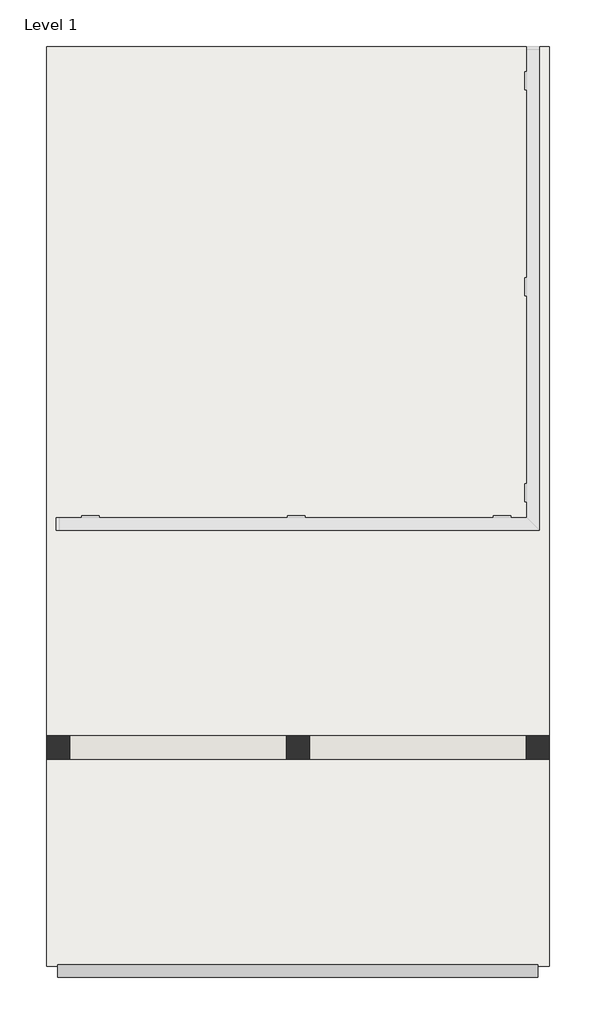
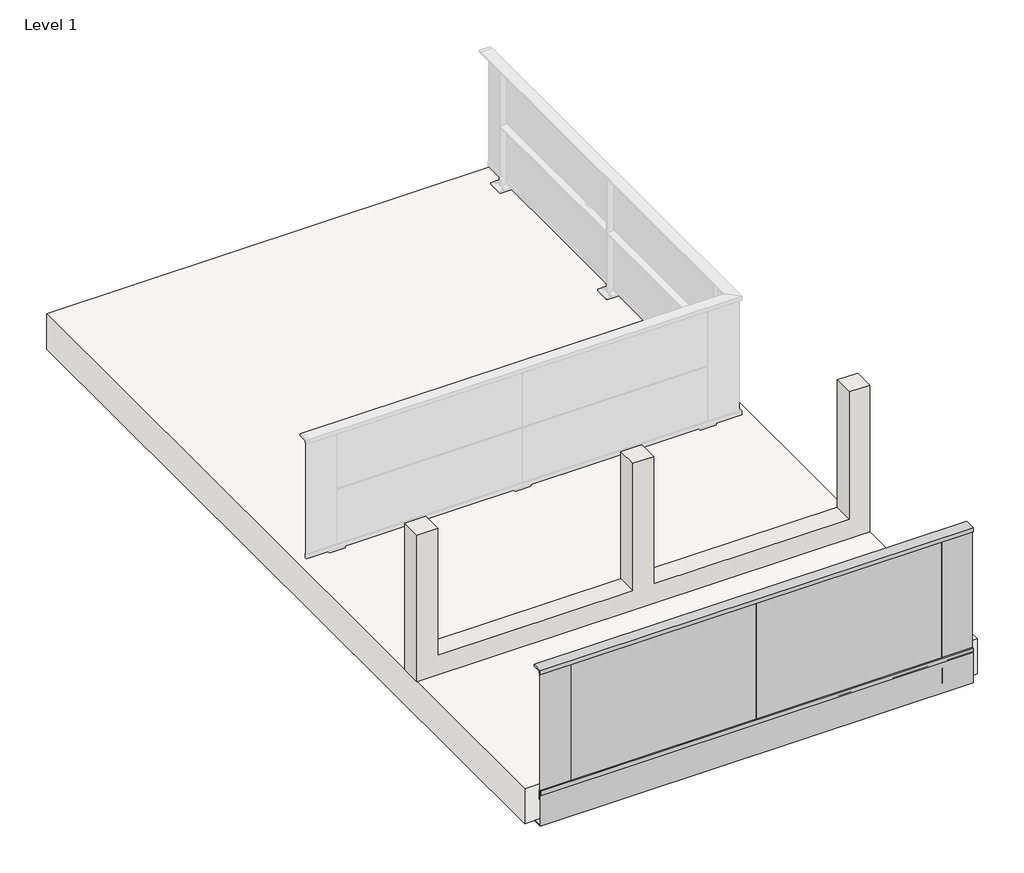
# One storey, part 1 of 2: 1 railing, 1 slab, 1 wall.
"""IFC4 building model written with IfcOpenShell, lengths in millimetres."""

from ifc_helpers import new_model, si_unit, point, frame, frame_2d, origin, place, context, project, spatial, polyline, circle_curve, ellipse_curve, trimmed, segment, composite_curve, outline, extrude, element, save
from ifc_brep_helpers import plane_surface, cylinder_surface, revolved_surface, advanced_brep

model = new_model("IFC4")

# Units and contexts
model_context = context("Model", 3, world=origin())
ifc_project = project(units=[si_unit("LENGTHUNIT", "METRE", prefix="MILLI")], contexts=[model_context])

# Site, building, storey
site = spatial("IfcSite", under=ifc_project)
building = spatial("IfcBuilding", under=site)
storey = spatial("IfcBuildingStorey", under=building, Name="Level 1", Elevation=0.0)

# Railing
placement = place(None, origin())
element("IfcRailing", 1, ObjectType="Karactère Garde-Corps - Pose Nez Dalle", at=placement, inside=storey, context=model_context, shape_type="SolidModel", body=[
    extrude(outline(polyline([(1643.0410088, -38.0), (1643.0410088, 0.0), (1652.5410088, 0.0), (1652.5410088, -22.0), (1655.5410088, -22.0), (1655.5410088, 0.0), (1664.0410088, 0.0), (1664.0410088, -78.0), (1661.0410088, -78.0), (1661.0410088, -27.0), (1650.0410088, -27.0), (1650.0410088, -38.0), (1648.0410088, -38.0), (1648.0410088, -27.0), (1645.0410088, -27.0), (1645.0410088, -38.0), (1643.0410088, -38.0)])), frame((-13869.6075858, 0.0, 0.0), z_axis=(1.0, 0.0, 0.0), x_axis=(0.0, 1.0, 0.0)), (0.0, 0.0, 1.0), 3500.0),
    extrude(outline(polyline([(1645.0410088, -300.0), (1645.0410088, -27.0), (1648.0410088, -27.0), (1648.0410088, -297.0), (1725.0410088, -297.0), (1725.0410088, -300.0), (1645.0410088, -300.0)])), frame((-13869.6075858, 0.0, 0.0), z_axis=(1.0, 0.0, 0.0), x_axis=(0.0, 1.0, 0.0)), (0.0, 0.0, 1.0), 3500.0),
    extrude(outline(polyline([(1643.5410088, 1030.0), (1733.5410088, 1030.0), (1733.5410088, 1015.0), (1664.0410088, 1015.0), (1664.0410088, 996.0), (1655.5410088, 996.0), (1655.5410088, 1018.0), (1652.5410088, 1018.0), (1652.5410088, 996.0), (1643.5410088, 996.0), (1643.5410088, 1030.0)])), frame((-13869.6075858, 0.0, 0.0), z_axis=(1.0, 0.0, 0.0), x_axis=(0.0, 1.0, 0.0)), (0.0, 0.0, 1.0), 3500.0),
    extrude(outline(polyline([(-10619.6075858, 1652.5161987), (-10619.6075858, 1655.5161987), (-10369.6075858, 1655.5161987), (-10369.6075858, 1652.5161987), (-10619.6075858, 1652.5161987)])), frame((0.0, 0.0, -22.0), z_axis=(0.0, 0.0, 1.0), x_axis=(1.0, 0.0, 0.0)), (0.0, 0.0, 1.0), 1018.0),
    extrude(outline(polyline([(-13869.6075858, 1652.5161987), (-13869.6075858, 1655.5161987), (-13619.6075858, 1655.5161987), (-13619.6075858, 1652.5161987), (-13869.6075858, 1652.5161987)])), frame((0.0, 0.0, -22.0), z_axis=(0.0, 0.0, 1.0), x_axis=(1.0, 0.0, 0.0)), (0.0, 0.0, 1.0), 1018.0),
    advanced_brep(
    [(-10668.6075858, 1709.0410088, -165.0), (-10668.6075858, 1709.0410088, -156.0087554), (-10668.6075858, 1709.0410088, -173.9912446), (-10668.6075858, 1700.0497642, -165.0)],
    [
        (0, 1),
        (1, 2, circle_curve(frame((-10668.6075858, 1709.0410088, -165.0), z_axis=(0.0, 1.0, 0.0), x_axis=(0.0, 0.0, 1.0)), 8.9912446)),
        (2, 0),
        (2, 1, circle_curve(frame((-10668.6075858, 1709.0410088, -165.0), z_axis=(0.0, 1.0, 0.0), x_axis=(0.0, 0.0, 1.0)), 8.9912446)),
        (1, 3, circle_curve(frame((-10668.6075858, 1709.0410088, -165.0), z_axis=(1.0, 0.0, 0.0), x_axis=(0.0, 1.0, 0.0)), 8.9912446)),
        (3, 2, circle_curve(frame((-10668.6075858, 1709.0410088, -165.0), z_axis=(1.0, 0.0, 0.0), x_axis=(0.0, 1.0, 0.0)), 8.9912446)),
    ],
    [
        plane_surface(frame((-10668.6075858, 1709.0410088, -165.0), z_axis=(0.0, 1.0, 0.0), x_axis=(0.0, 0.0, 1.0))),
        revolved_surface(trimmed(ellipse_curve(frame((-10668.6075858, 1709.0410088, -165.0), z_axis=(-1.0, 0.0, 0.0), x_axis=(0.0, 1.0, 0.0)), 8.9912446, 8.9912446), [point((-10668.6075858, 1700.0497642, -165.0))], [point((-10668.6075858, 1709.0410088, -156.0087554))], True, "CARTESIAN"), (-10668.6075858, 1709.0410088, -165.0), (0.0, 1.0, 0.0)),
    ],
    [
        (0, [[1, 2, 3]]),
        (0, [[-3, 4, -1]]),
        (1, [[-2, 5, 6]]),
        (1, [[-4, -6, -5]]),
    ],
),
    advanced_brep(
    [(-10570.6075858, 1709.0410088, -173.9912446), (-10570.6075858, 1709.0410088, -156.0087554), (-10570.6075858, 1709.0410088, -165.0), (-10570.6075858, 1700.0497642, -165.0)],
    [
        (0, 1, circle_curve(frame((-10570.6075858, 1709.0410088, -165.0), z_axis=(0.0, 1.0, 0.0), x_axis=(0.0, 0.0, 1.0)), 8.9912446)),
        (1, 2),
        (2, 0),
        (1, 0, circle_curve(frame((-10570.6075858, 1709.0410088, -165.0), z_axis=(0.0, 1.0, 0.0), x_axis=(0.0, 0.0, 1.0)), 8.9912446)),
        (3, 1, circle_curve(frame((-10570.6075858, 1709.0410088, -165.0), z_axis=(-1.0, 0.0, 0.0), x_axis=(0.0, 1.0, 0.0)), 8.9912446)),
        (0, 3, circle_curve(frame((-10570.6075858, 1709.0410088, -165.0), z_axis=(-1.0, 0.0, 0.0), x_axis=(0.0, 1.0, 0.0)), 8.9912446)),
    ],
    [
        plane_surface(frame((-10570.6075858, 1709.0410088, -165.0), z_axis=(0.0, 1.0, 0.0), x_axis=(0.0, 0.0, 1.0))),
        revolved_surface(trimmed(ellipse_curve(frame((-10570.6075858, 1709.0410088, -165.0), z_axis=(1.0, 0.0, 0.0), x_axis=(0.0, 1.0, 0.0)), 8.9912446, 8.9912446), [point((-10570.6075858, 1709.0410088, -156.0087554))], [point((-10570.6075858, 1700.0497642, -165.0))], True, "CARTESIAN"), (-10570.6075858, 1709.0410088, -165.0), (0.0, -1.0, 0.0)),
    ],
    [
        (0, [[1, 2, 3]]),
        (0, [[4, -3, -2]]),
        (1, [[5, -1, 6]]),
        (1, [[-6, -4, -5]]),
    ],
),
    extrude(outline(polyline([(-172.1820809, -10563.4255048), (-165.0, -10560.4505895), (-157.8179191, -10563.4255048), (-154.8430037, -10570.6075858), (-157.8179191, -10577.7896667), (-165.0, -10580.764582), (-172.1820809, -10577.7896667), (-175.1569963, -10570.6075858), (-172.1820809, -10563.4255048)])), frame((0.0, 1709.0410088, 0.0), z_axis=(0.0, 1.0, 0.0), x_axis=(0.0, 0.0, 1.0)), (0.0, 0.0, 1.0), 5.0),
    extrude(outline(polyline([(-172.1820809, -10675.7896667), (-175.1569963, -10668.6075858), (-172.1820809, -10661.4255048), (-165.0, -10658.4505895), (-157.8179191, -10661.4255048), (-154.8430037, -10668.6075858), (-157.8179191, -10675.7896667), (-165.0, -10678.764582), (-172.1820809, -10675.7896667)])), frame((0.0, 1709.0410088, 0.0), z_axis=(0.0, 1.0, 0.0), x_axis=(0.0, 0.0, 1.0)), (0.0, 0.0, 1.0), 5.0),
    advanced_brep(
    [(-10648.1303524, 1714.0410088, -100.0), (-10641.1075858, 1707.0182422, -100.0), (-10641.1075858, 1664.4910088, -100.0), (-10626.6575858, 1650.0410088, -100.0), (-10612.5575858, 1650.0410088, -100.0), (-10598.1075858, 1664.4910088, -100.0), (-10598.1075858, 1707.0182422, -100.0), (-10591.0848192, 1714.0410088, -100.0), (-10567.1075858, 1714.0410088, -100.0), (-10567.1075858, 1725.0410088, -100.0), (-10672.1075858, 1725.0410088, -100.0), (-10672.1075858, 1714.0410088, -100.0), (-10630.1075858, 1664.4910088, -100.0), (-10630.1075858, 1714.0410088, -100.0), (-10609.1075858, 1714.0410088, -100.0), (-10609.1075858, 1664.4910088, -100.0), (-10612.5575858, 1661.0410088, -100.0), (-10626.6575858, 1661.0410088, -100.0), (-10641.1075858, 1707.0182422, -230.0), (-10648.1303524, 1714.0410088, -230.0), (-10672.1075858, 1714.0410088, -230.0), (-10672.1075858, 1725.0410088, -230.0), (-10567.1075858, 1725.0410088, -230.0), (-10567.1075858, 1714.0410088, -230.0), (-10591.0848192, 1714.0410088, -230.0), (-10598.1075858, 1707.0182422, -230.0), (-10598.1075858, 1664.4910088, -230.0), (-10612.5575858, 1650.0410088, -230.0), (-10626.6575858, 1650.0410088, -230.0), (-10641.1075858, 1664.4910088, -230.0), (-10630.1075858, 1714.0410088, -230.0), (-10630.1075858, 1664.4910088, -230.0), (-10626.6575858, 1661.0410088, -230.0), (-10612.5575858, 1661.0410088, -230.0), (-10609.1075858, 1664.4910088, -230.0), (-10609.1075858, 1714.0410088, -230.0), (-10687.1075858, 1725.0410088, -115.0), (-10552.1075858, 1725.0410088, -115.0), (-10552.1075858, 1725.0410088, -215.0), (-10687.1075858, 1725.0410088, -215.0), (-10687.1075858, 1714.0410088, -115.0), (-10687.1075858, 1714.0410088, -215.0), (-10552.1075858, 1714.0410088, -215.0), (-10552.1075858, 1714.0410088, -115.0)],
    [
        (0, 1, circle_curve(frame((-10648.1303524, 1707.0182422, -100.0), z_axis=(0.0, 0.0, -1.0), x_axis=(0.0, 1.0, 0.0)), 7.0227666)),
        (1, 2),
        (2, 3, circle_curve(frame((-10626.6575858, 1664.4910088, -100.0), z_axis=(0.0, 0.0, 1.0), x_axis=(0.0, 1.0, 0.0)), 14.45)),
        (3, 4),
        (4, 5, circle_curve(frame((-10612.5575858, 1664.4910088, -100.0), z_axis=(0.0, 0.0, 1.0), x_axis=(0.0, 1.0, 0.0)), 14.45)),
        (5, 6),
        (6, 7, circle_curve(frame((-10591.0848192, 1707.0182422, -100.0), z_axis=(0.0, 0.0, -1.0), x_axis=(0.0, 1.0, 0.0)), 7.0227666)),
        (7, 8),
        (8, 9),
        (9, 10),
        (10, 11),
        (11, 0),
        (12, 13),
        (13, 14),
        (14, 15),
        (15, 16, circle_curve(frame((-10612.5575858, 1664.4910088, -100.0), z_axis=(0.0, 0.0, -1.0), x_axis=(0.0, 1.0, 0.0)), 3.45)),
        (16, 17),
        (17, 12, circle_curve(frame((-10626.6575858, 1664.4910088, -100.0), z_axis=(0.0, 0.0, -1.0), x_axis=(0.0, 1.0, 0.0)), 3.45)),
        (18, 19, circle_curve(frame((-10648.1303524, 1707.0182422, -230.0), z_axis=(0.0, 0.0, 1.0), x_axis=(0.0, 1.0, 0.0)), 7.0227666)),
        (19, 20),
        (20, 21),
        (21, 22),
        (22, 23),
        (23, 24),
        (24, 25, circle_curve(frame((-10591.0848192, 1707.0182422, -230.0), z_axis=(0.0, 0.0, 1.0), x_axis=(0.0, 1.0, 0.0)), 7.0227666)),
        (25, 26),
        (26, 27, circle_curve(frame((-10612.5575858, 1664.4910088, -230.0), z_axis=(0.0, 0.0, -1.0), x_axis=(0.0, 1.0, 0.0)), 14.45)),
        (27, 28),
        (28, 29, circle_curve(frame((-10626.6575858, 1664.4910088, -230.0), z_axis=(0.0, 0.0, -1.0), x_axis=(0.0, 1.0, 0.0)), 14.45)),
        (29, 18),
        (30, 31),
        (31, 32, circle_curve(frame((-10626.6575858, 1664.4910088, -230.0), z_axis=(0.0, 0.0, 1.0), x_axis=(0.0, 1.0, 0.0)), 3.45)),
        (32, 33),
        (33, 34, circle_curve(frame((-10612.5575858, 1664.4910088, -230.0), z_axis=(0.0, 0.0, 1.0), x_axis=(0.0, 1.0, 0.0)), 3.45)),
        (34, 35),
        (35, 30),
        (36, 10, circle_curve(frame((-10672.1075858, 1725.0410088, -115.0), z_axis=(0.0, 1.0, 0.0), x_axis=(1.0, 0.0, 0.0)), 15.0)),
        (9, 37, circle_curve(frame((-10567.1075858, 1725.0410088, -115.0), z_axis=(0.0, 1.0, 0.0), x_axis=(1.0, 0.0, 0.0)), 15.0)),
        (37, 38),
        (38, 22, circle_curve(frame((-10567.1075858, 1725.0410088, -215.0), z_axis=(0.0, 1.0, 0.0), x_axis=(1.0, 0.0, 0.0)), 15.0)),
        (21, 39, circle_curve(frame((-10672.1075858, 1725.0410088, -215.0), z_axis=(0.0, 1.0, 0.0), x_axis=(1.0, 0.0, 0.0)), 15.0)),
        (39, 36),
        (13, 30),
        (35, 14),
        (40, 41),
        (41, 20, circle_curve(frame((-10672.1075858, 1714.0410088, -215.0), z_axis=(0.0, -1.0, 0.0), x_axis=(1.0, 0.0, 0.0)), 15.0)),
        (19, 0),
        (11, 40, circle_curve(frame((-10672.1075858, 1714.0410088, -115.0), z_axis=(0.0, -1.0, 0.0), x_axis=(1.0, 0.0, 0.0)), 15.0)),
        (23, 42, circle_curve(frame((-10567.1075858, 1714.0410088, -215.0), z_axis=(0.0, -1.0, 0.0), x_axis=(1.0, 0.0, 0.0)), 15.0)),
        (42, 43),
        (43, 8, circle_curve(frame((-10567.1075858, 1714.0410088, -115.0), z_axis=(0.0, -1.0, 0.0), x_axis=(1.0, 0.0, 0.0)), 15.0)),
        (7, 24),
        (39, 41),
        (40, 36),
        (38, 42),
        (37, 43),
        (18, 1),
        (29, 2),
        (28, 3),
        (27, 4),
        (26, 5),
        (25, 6),
        (34, 15),
        (33, 16),
        (32, 17),
        (31, 12),
    ],
    [
        plane_surface(frame((-10687.1075858, 1714.0410088, -100.0), z_axis=(0.0, 0.0, 1.0), x_axis=(-1.0, 0.0, 0.0))),
        plane_surface(frame((-10687.1075858, 1714.0410088, -230.0), z_axis=(0.0, 0.0, -1.0), x_axis=(1.0, 0.0, 0.0))),
        plane_surface(frame((-10657.1075858, 1725.0410088, -115.0), z_axis=(0.0, 1.0, 0.0), x_axis=(0.0, 0.0, -1.0))),
        plane_surface(frame((-10657.1075858, 1714.0410088, -115.0), z_axis=(0.0, -1.0, 0.0), x_axis=(0.0, 0.0, 1.0))),
        plane_surface(frame((-10687.1075858, 1725.0410088, -215.0), z_axis=(-1.0, 0.0, 0.0), x_axis=(0.0, -1.0, 0.0))),
        cylinder_surface(frame((-10672.1075858, 1714.0410088, -215.0), z_axis=(0.0, 1.0, 0.0), x_axis=(1.0, 0.0, 0.0)), 15.0),
        cylinder_surface(frame((-10567.1075858, 1714.0410088, -215.0), z_axis=(0.0, 1.0, 0.0), x_axis=(1.0, 0.0, 0.0)), 15.0),
        plane_surface(frame((-10552.1075858, 1725.0410088, -115.0), z_axis=(1.0, 0.0, 0.0), x_axis=(0.0, -1.0, 0.0))),
        cylinder_surface(frame((-10567.1075858, 1714.0410088, -115.0), z_axis=(0.0, 1.0, 0.0), x_axis=(1.0, 0.0, 0.0)), 15.0),
        cylinder_surface(frame((-10672.1075858, 1714.0410088, -115.0), z_axis=(0.0, 1.0, 0.0), x_axis=(1.0, 0.0, 0.0)), 15.0),
        revolved_surface(polyline([(-10648.1303524, 1714.0410088, -230.0), (-10648.1303524, 1714.0410088, -100.0)]), (-10648.1303524, 1707.0182422, -230.0), (0.0, 0.0, -1.0)),
        plane_surface(frame((-10641.1075858, 1707.0182422, -100.0), z_axis=(-1.0, 0.0, 0.0), x_axis=(0.0, 0.0, -1.0))),
        cylinder_surface(frame((-10626.6575858, 1664.4910088, -230.0), z_axis=(0.0, 0.0, 1.0), x_axis=(0.0, 1.0, 0.0)), 14.45),
        plane_surface(frame((-10626.6575858, 1650.0410088, -100.0), z_axis=(0.0, -1.0, 0.0), x_axis=(0.0, 0.0, -1.0))),
        cylinder_surface(frame((-10612.5575858, 1664.4910088, -230.0), z_axis=(0.0, 0.0, 1.0), x_axis=(0.0, 1.0, 0.0)), 14.45),
        plane_surface(frame((-10598.1075858, 1664.4910088, -100.0), z_axis=(1.0, 0.0, 0.0), x_axis=(0.0, 0.0, -1.0))),
        revolved_surface(polyline([(-10591.0848192, 1714.0410088, -230.0), (-10591.0848192, 1714.0410088, -100.0)]), (-10591.0848192, 1707.0182422, -230.0), (0.0, 0.0, -1.0)),
        plane_surface(frame((-10609.1075858, 1714.0410088, -100.0), z_axis=(-1.0, 0.0, 0.0), x_axis=(0.0, 0.0, -1.0))),
        revolved_surface(polyline([(-10612.5575858, 1667.9410088, -230.0), (-10612.5575858, 1667.9410088, -100.0)]), (-10612.5575858, 1664.4910088, -230.0), (0.0, 0.0, -1.0)),
        plane_surface(frame((-10612.5575858, 1661.0410088, -100.0), z_axis=(0.0, 1.0, 0.0), x_axis=(0.0, 0.0, -1.0))),
        revolved_surface(polyline([(-10626.6575858, 1667.9410088, -230.0), (-10626.6575858, 1667.9410088, -100.0)]), (-10626.6575858, 1664.4910088, -230.0), (0.0, 0.0, -1.0)),
        plane_surface(frame((-10630.1075858, 1664.4910088, -100.0), z_axis=(1.0, 0.0, 0.0), x_axis=(0.0, 0.0, -1.0))),
    ],
    [
        (0, [[1, 2, 3, 4, 5, 6, 7, 8, 9, 10, 11, 12], [13, 14, 15, 16, 17, 18]]),
        (1, [[19, 20, 21, 22, 23, 24, 25, 26, 27, 28, 29, 30], [31, 32, 33, 34, 35, 36]]),
        (2, [[37, -10, 38, 39, 40, -22, 41, 42]]),
        (3, [[-14, 43, -36, 44]]),
        (3, [[45, 46, -20, 47, -12, 48]]),
        (3, [[49, 50, 51, -8, 52, -24]]),
        (4, [[-42, 53, -45, 54]]),
        (5, [[-41, -21, -46, -53]]),
        (6, [[-40, 55, -49, -23]]),
        (7, [[-39, 56, -50, -55]]),
        (8, [[-38, -9, -51, -56]]),
        (9, [[-37, -54, -48, -11]]),
        (10, [[-1, -47, -19, 57]]),
        (11, [[-2, -57, -30, 58]]),
        (12, [[-3, -58, -29, 59]]),
        (13, [[-4, -59, -28, 60]]),
        (14, [[-5, -60, -27, 61]]),
        (15, [[-6, -61, -26, 62]]),
        (16, [[-7, -62, -25, -52]]),
        (17, [[-15, -44, -35, 63]]),
        (18, [[-16, -63, -34, 64]]),
        (19, [[-17, -64, -33, 65]]),
        (20, [[-18, -65, -32, 66]]),
        (21, [[-13, -66, -31, -43]]),
    ],
),
    extrude(outline(polyline([(-10627.1075858, 1714.0410088), (-10612.1075858, 1714.0410088), (-10612.1075858, 1664.0410088), (-10627.1075858, 1664.0410088), (-10627.1075858, 1714.0410088)]), holes=[composite_curve([segment(trimmed(circle_curve(frame_2d((-10619.6075858, 1689.0410088)), 5.0234856), [point((-10619.6075858, 1684.0175232))], [point((-10619.6075858, 1694.0644944))], True, "CARTESIAN"), True, "CONTINUOUS"), segment(trimmed(circle_curve(frame_2d((-10619.6075858, 1689.0410088)), 5.0234856), [point((-10619.6075858, 1694.0644944))], [point((-10619.6075858, 1684.0175232))], True, "CARTESIAN"), True, "CONTINUOUS")], self_intersect=False)]), frame((0.0, 0.0, -297.0), z_axis=(0.0, 0.0, 1.0), x_axis=(1.0, 0.0, 0.0)), (0.0, 0.0, 1.0), 1312.0),
    extrude(outline(polyline([(-12119.6075858, 1655.5161987), (-10619.6075858, 1655.5161987), (-10619.6075858, 1652.5161987), (-12119.6075858, 1652.5161987), (-12119.6075858, 1655.5161987)])), frame((0.0, 0.0, -22.0), z_axis=(0.0, 0.0, 1.0), x_axis=(1.0, 0.0, 0.0)), (0.0, 0.0, 1.0), 1040.0),
    extrude(outline(polyline([(1655.5410088, 465.0), (1712.5410088, 465.0), (1712.5410088, 450.0), (1655.5410088, 450.0), (1655.5410088, 465.0)]), holes=[polyline([(1658.0410088, 463.5), (1658.0410088, 451.5), (1670.0410088, 451.5), (1670.0410088, 463.5), (1658.0410088, 463.5)]), polyline([(1711.0410088, 463.5), (1671.5410088, 463.5), (1671.5410088, 451.5), (1711.0410088, 451.5), (1711.0410088, 463.5)])]), frame((-12112.1075858, 0.0, 0.0), z_axis=(1.0, 0.0, 0.0), x_axis=(0.0, 1.0, 0.0)), (0.0, 0.0, 1.0), 1485.0),
    extrude(outline(polyline([(1666.5410088, 0.0), (1711.5410088, 0.0), (1711.5410088, -15.0), (1666.5410088, -15.0), (1666.5410088, 0.0)]), holes=[polyline([(1668.0410088, -1.5), (1668.0410088, -13.5), (1710.0410088, -13.5), (1710.0410088, -1.5), (1668.0410088, -1.5)])]), frame((-12112.1075858, 0.0, 0.0), z_axis=(1.0, 0.0, 0.0), x_axis=(0.0, 1.0, 0.0)), (0.0, 0.0, 1.0), 1485.0),
    advanced_brep(
    [(-12168.6075858, 1709.0410088, -165.0), (-12168.6075858, 1709.0410088, -156.0087554), (-12168.6075858, 1709.0410088, -173.9912446), (-12168.6075858, 1700.0497642, -165.0)],
    [
        (0, 1),
        (1, 2, circle_curve(frame((-12168.6075858, 1709.0410088, -165.0), z_axis=(0.0, 1.0, 0.0), x_axis=(0.0, 0.0, 1.0)), 8.9912446)),
        (2, 0),
        (2, 1, circle_curve(frame((-12168.6075858, 1709.0410088, -165.0), z_axis=(0.0, 1.0, 0.0), x_axis=(0.0, 0.0, 1.0)), 8.9912446)),
        (1, 3, circle_curve(frame((-12168.6075858, 1709.0410088, -165.0), z_axis=(1.0, 0.0, 0.0), x_axis=(0.0, 1.0, 0.0)), 8.9912446)),
        (3, 2, circle_curve(frame((-12168.6075858, 1709.0410088, -165.0), z_axis=(1.0, 0.0, 0.0), x_axis=(0.0, 1.0, 0.0)), 8.9912446)),
    ],
    [
        plane_surface(frame((-12168.6075858, 1709.0410088, -165.0), z_axis=(0.0, 1.0, 0.0), x_axis=(0.0, 0.0, 1.0))),
        revolved_surface(trimmed(ellipse_curve(frame((-12168.6075858, 1709.0410088, -165.0), z_axis=(-1.0, 0.0, 0.0), x_axis=(0.0, 1.0, 0.0)), 8.9912446, 8.9912446), [point((-12168.6075858, 1700.0497642, -165.0))], [point((-12168.6075858, 1709.0410088, -156.0087554))], True, "CARTESIAN"), (-12168.6075858, 1709.0410088, -165.0), (0.0, 1.0, 0.0)),
    ],
    [
        (0, [[1, 2, 3]]),
        (0, [[-3, 4, -1]]),
        (1, [[-2, 5, 6]]),
        (1, [[-4, -6, -5]]),
    ],
),
    advanced_brep(
    [(-12070.6075858, 1709.0410088, -173.9912446), (-12070.6075858, 1709.0410088, -156.0087554), (-12070.6075858, 1709.0410088, -165.0), (-12070.6075858, 1700.0497642, -165.0)],
    [
        (0, 1, circle_curve(frame((-12070.6075858, 1709.0410088, -165.0), z_axis=(0.0, 1.0, 0.0), x_axis=(0.0, 0.0, 1.0)), 8.9912446)),
        (1, 2),
        (2, 0),
        (1, 0, circle_curve(frame((-12070.6075858, 1709.0410088, -165.0), z_axis=(0.0, 1.0, 0.0), x_axis=(0.0, 0.0, 1.0)), 8.9912446)),
        (3, 1, circle_curve(frame((-12070.6075858, 1709.0410088, -165.0), z_axis=(-1.0, 0.0, 0.0), x_axis=(0.0, 1.0, 0.0)), 8.9912446)),
        (0, 3, circle_curve(frame((-12070.6075858, 1709.0410088, -165.0), z_axis=(-1.0, 0.0, 0.0), x_axis=(0.0, 1.0, 0.0)), 8.9912446)),
    ],
    [
        plane_surface(frame((-12070.6075858, 1709.0410088, -165.0), z_axis=(0.0, 1.0, 0.0), x_axis=(0.0, 0.0, 1.0))),
        revolved_surface(trimmed(ellipse_curve(frame((-12070.6075858, 1709.0410088, -165.0), z_axis=(1.0, 0.0, 0.0), x_axis=(0.0, 1.0, 0.0)), 8.9912446, 8.9912446), [point((-12070.6075858, 1709.0410088, -156.0087554))], [point((-12070.6075858, 1700.0497642, -165.0))], True, "CARTESIAN"), (-12070.6075858, 1709.0410088, -165.0), (0.0, -1.0, 0.0)),
    ],
    [
        (0, [[1, 2, 3]]),
        (0, [[4, -3, -2]]),
        (1, [[5, -1, 6]]),
        (1, [[-6, -4, -5]]),
    ],
),
    extrude(outline(polyline([(-172.1820809, -12063.4255048), (-165.0, -12060.4505895), (-157.8179191, -12063.4255048), (-154.8430037, -12070.6075858), (-157.8179191, -12077.7896667), (-165.0, -12080.764582), (-172.1820809, -12077.7896667), (-175.1569963, -12070.6075858), (-172.1820809, -12063.4255048)])), frame((0.0, 1709.0410088, 0.0), z_axis=(0.0, 1.0, 0.0), x_axis=(0.0, 0.0, 1.0)), (0.0, 0.0, 1.0), 5.0),
    extrude(outline(polyline([(-172.1820809, -12175.7896667), (-175.1569963, -12168.6075858), (-172.1820809, -12161.4255048), (-165.0, -12158.4505895), (-157.8179191, -12161.4255048), (-154.8430037, -12168.6075858), (-157.8179191, -12175.7896667), (-165.0, -12178.764582), (-172.1820809, -12175.7896667)])), frame((0.0, 1709.0410088, 0.0), z_axis=(0.0, 1.0, 0.0), x_axis=(0.0, 0.0, 1.0)), (0.0, 0.0, 1.0), 5.0),
    advanced_brep(
    [(-12148.1303524, 1714.0410088, -100.0), (-12141.1075858, 1707.0182422, -100.0), (-12141.1075858, 1664.4910088, -100.0), (-12126.6575858, 1650.0410088, -100.0), (-12112.5575858, 1650.0410088, -100.0), (-12098.1075858, 1664.4910088, -100.0), (-12098.1075858, 1707.0182422, -100.0), (-12091.0848192, 1714.0410088, -100.0), (-12067.1075858, 1714.0410088, -100.0), (-12067.1075858, 1725.0410088, -100.0), (-12172.1075858, 1725.0410088, -100.0), (-12172.1075858, 1714.0410088, -100.0), (-12130.1075858, 1664.4910088, -100.0), (-12130.1075858, 1714.0410088, -100.0), (-12109.1075858, 1714.0410088, -100.0), (-12109.1075858, 1664.4910088, -100.0), (-12112.5575858, 1661.0410088, -100.0), (-12126.6575858, 1661.0410088, -100.0), (-12141.1075858, 1707.0182422, -230.0), (-12148.1303524, 1714.0410088, -230.0), (-12172.1075858, 1714.0410088, -230.0), (-12172.1075858, 1725.0410088, -230.0), (-12067.1075858, 1725.0410088, -230.0), (-12067.1075858, 1714.0410088, -230.0), (-12091.0848192, 1714.0410088, -230.0), (-12098.1075858, 1707.0182422, -230.0), (-12098.1075858, 1664.4910088, -230.0), (-12112.5575858, 1650.0410088, -230.0), (-12126.6575858, 1650.0410088, -230.0), (-12141.1075858, 1664.4910088, -230.0), (-12130.1075858, 1714.0410088, -230.0), (-12130.1075858, 1664.4910088, -230.0), (-12126.6575858, 1661.0410088, -230.0), (-12112.5575858, 1661.0410088, -230.0), (-12109.1075858, 1664.4910088, -230.0), (-12109.1075858, 1714.0410088, -230.0), (-12187.1075858, 1725.0410088, -115.0), (-12052.1075858, 1725.0410088, -115.0), (-12052.1075858, 1725.0410088, -215.0), (-12187.1075858, 1725.0410088, -215.0), (-12187.1075858, 1714.0410088, -115.0), (-12187.1075858, 1714.0410088, -215.0), (-12052.1075858, 1714.0410088, -215.0), (-12052.1075858, 1714.0410088, -115.0)],
    [
        (0, 1, circle_curve(frame((-12148.1303524, 1707.0182422, -100.0), z_axis=(0.0, 0.0, -1.0), x_axis=(0.0, 1.0, 0.0)), 7.0227666)),
        (1, 2),
        (2, 3, circle_curve(frame((-12126.6575858, 1664.4910088, -100.0), z_axis=(0.0, 0.0, 1.0), x_axis=(0.0, 1.0, 0.0)), 14.45)),
        (3, 4),
        (4, 5, circle_curve(frame((-12112.5575858, 1664.4910088, -100.0), z_axis=(0.0, 0.0, 1.0), x_axis=(0.0, 1.0, 0.0)), 14.45)),
        (5, 6),
        (6, 7, circle_curve(frame((-12091.0848192, 1707.0182422, -100.0), z_axis=(0.0, 0.0, -1.0), x_axis=(0.0, 1.0, 0.0)), 7.0227666)),
        (7, 8),
        (8, 9),
        (9, 10),
        (10, 11),
        (11, 0),
        (12, 13),
        (13, 14),
        (14, 15),
        (15, 16, circle_curve(frame((-12112.5575858, 1664.4910088, -100.0), z_axis=(0.0, 0.0, -1.0), x_axis=(0.0, 1.0, 0.0)), 3.45)),
        (16, 17),
        (17, 12, circle_curve(frame((-12126.6575858, 1664.4910088, -100.0), z_axis=(0.0, 0.0, -1.0), x_axis=(0.0, 1.0, 0.0)), 3.45)),
        (18, 19, circle_curve(frame((-12148.1303524, 1707.0182422, -230.0), z_axis=(0.0, 0.0, 1.0), x_axis=(0.0, 1.0, 0.0)), 7.0227666)),
        (19, 20),
        (20, 21),
        (21, 22),
        (22, 23),
        (23, 24),
        (24, 25, circle_curve(frame((-12091.0848192, 1707.0182422, -230.0), z_axis=(0.0, 0.0, 1.0), x_axis=(0.0, 1.0, 0.0)), 7.0227666)),
        (25, 26),
        (26, 27, circle_curve(frame((-12112.5575858, 1664.4910088, -230.0), z_axis=(0.0, 0.0, -1.0), x_axis=(0.0, 1.0, 0.0)), 14.45)),
        (27, 28),
        (28, 29, circle_curve(frame((-12126.6575858, 1664.4910088, -230.0), z_axis=(0.0, 0.0, -1.0), x_axis=(0.0, 1.0, 0.0)), 14.45)),
        (29, 18),
        (30, 31),
        (31, 32, circle_curve(frame((-12126.6575858, 1664.4910088, -230.0), z_axis=(0.0, 0.0, 1.0), x_axis=(0.0, 1.0, 0.0)), 3.45)),
        (32, 33),
        (33, 34, circle_curve(frame((-12112.5575858, 1664.4910088, -230.0), z_axis=(0.0, 0.0, 1.0), x_axis=(0.0, 1.0, 0.0)), 3.45)),
        (34, 35),
        (35, 30),
        (36, 10, circle_curve(frame((-12172.1075858, 1725.0410088, -115.0), z_axis=(0.0, 1.0, 0.0), x_axis=(1.0, 0.0, 0.0)), 15.0)),
        (9, 37, circle_curve(frame((-12067.1075858, 1725.0410088, -115.0), z_axis=(0.0, 1.0, 0.0), x_axis=(1.0, 0.0, 0.0)), 15.0)),
        (37, 38),
        (38, 22, circle_curve(frame((-12067.1075858, 1725.0410088, -215.0), z_axis=(0.0, 1.0, 0.0), x_axis=(1.0, 0.0, 0.0)), 15.0)),
        (21, 39, circle_curve(frame((-12172.1075858, 1725.0410088, -215.0), z_axis=(0.0, 1.0, 0.0), x_axis=(1.0, 0.0, 0.0)), 15.0)),
        (39, 36),
        (13, 30),
        (35, 14),
        (40, 41),
        (41, 20, circle_curve(frame((-12172.1075858, 1714.0410088, -215.0), z_axis=(0.0, -1.0, 0.0), x_axis=(1.0, 0.0, 0.0)), 15.0)),
        (19, 0),
        (11, 40, circle_curve(frame((-12172.1075858, 1714.0410088, -115.0), z_axis=(0.0, -1.0, 0.0), x_axis=(1.0, 0.0, 0.0)), 15.0)),
        (23, 42, circle_curve(frame((-12067.1075858, 1714.0410088, -215.0), z_axis=(0.0, -1.0, 0.0), x_axis=(1.0, 0.0, 0.0)), 15.0)),
        (42, 43),
        (43, 8, circle_curve(frame((-12067.1075858, 1714.0410088, -115.0), z_axis=(0.0, -1.0, 0.0), x_axis=(1.0, 0.0, 0.0)), 15.0)),
        (7, 24),
        (39, 41),
        (40, 36),
        (38, 42),
        (37, 43),
        (18, 1),
        (29, 2),
        (28, 3),
        (27, 4),
        (26, 5),
        (25, 6),
        (34, 15),
        (33, 16),
        (32, 17),
        (31, 12),
    ],
    [
        plane_surface(frame((-12187.1075858, 1714.0410088, -100.0), z_axis=(0.0, 0.0, 1.0), x_axis=(-1.0, 0.0, 0.0))),
        plane_surface(frame((-12187.1075858, 1714.0410088, -230.0), z_axis=(0.0, 0.0, -1.0), x_axis=(1.0, 0.0, 0.0))),
        plane_surface(frame((-12157.1075858, 1725.0410088, -115.0), z_axis=(0.0, 1.0, 0.0), x_axis=(0.0, 0.0, -1.0))),
        plane_surface(frame((-12157.1075858, 1714.0410088, -115.0), z_axis=(0.0, -1.0, 0.0), x_axis=(0.0, 0.0, 1.0))),
        plane_surface(frame((-12187.1075858, 1725.0410088, -215.0), z_axis=(-1.0, 0.0, 0.0), x_axis=(0.0, -1.0, 0.0))),
        cylinder_surface(frame((-12172.1075858, 1714.0410088, -215.0), z_axis=(0.0, 1.0, 0.0), x_axis=(1.0, 0.0, 0.0)), 15.0),
        cylinder_surface(frame((-12067.1075858, 1714.0410088, -215.0), z_axis=(0.0, 1.0, 0.0), x_axis=(1.0, 0.0, 0.0)), 15.0),
        plane_surface(frame((-12052.1075858, 1725.0410088, -115.0), z_axis=(1.0, 0.0, 0.0), x_axis=(0.0, -1.0, 0.0))),
        cylinder_surface(frame((-12067.1075858, 1714.0410088, -115.0), z_axis=(0.0, 1.0, 0.0), x_axis=(1.0, 0.0, 0.0)), 15.0),
        cylinder_surface(frame((-12172.1075858, 1714.0410088, -115.0), z_axis=(0.0, 1.0, 0.0), x_axis=(1.0, 0.0, 0.0)), 15.0),
        revolved_surface(polyline([(-12148.1303524, 1714.0410088, -230.0), (-12148.1303524, 1714.0410088, -100.0)]), (-12148.1303524, 1707.0182422, -230.0), (0.0, 0.0, -1.0)),
        plane_surface(frame((-12141.1075858, 1707.0182422, -100.0), z_axis=(-1.0, 0.0, 0.0), x_axis=(0.0, 0.0, -1.0))),
        cylinder_surface(frame((-12126.6575858, 1664.4910088, -230.0), z_axis=(0.0, 0.0, 1.0), x_axis=(0.0, 1.0, 0.0)), 14.45),
        plane_surface(frame((-12126.6575858, 1650.0410088, -100.0), z_axis=(0.0, -1.0, 0.0), x_axis=(0.0, 0.0, -1.0))),
        cylinder_surface(frame((-12112.5575858, 1664.4910088, -230.0), z_axis=(0.0, 0.0, 1.0), x_axis=(0.0, 1.0, 0.0)), 14.45),
        plane_surface(frame((-12098.1075858, 1664.4910088, -100.0), z_axis=(1.0, 0.0, 0.0), x_axis=(0.0, 0.0, -1.0))),
        revolved_surface(polyline([(-12091.0848192, 1714.0410088, -230.0), (-12091.0848192, 1714.0410088, -100.0)]), (-12091.0848192, 1707.0182422, -230.0), (0.0, 0.0, -1.0)),
        plane_surface(frame((-12109.1075858, 1714.0410088, -100.0), z_axis=(-1.0, 0.0, 0.0), x_axis=(0.0, 0.0, -1.0))),
        revolved_surface(polyline([(-12112.5575858, 1667.9410088, -230.0), (-12112.5575858, 1667.9410088, -100.0)]), (-12112.5575858, 1664.4910088, -230.0), (0.0, 0.0, -1.0)),
        plane_surface(frame((-12112.5575858, 1661.0410088, -100.0), z_axis=(0.0, 1.0, 0.0), x_axis=(0.0, 0.0, -1.0))),
        revolved_surface(polyline([(-12126.6575858, 1667.9410088, -230.0), (-12126.6575858, 1667.9410088, -100.0)]), (-12126.6575858, 1664.4910088, -230.0), (0.0, 0.0, -1.0)),
        plane_surface(frame((-12130.1075858, 1664.4910088, -100.0), z_axis=(1.0, 0.0, 0.0), x_axis=(0.0, 0.0, -1.0))),
    ],
    [
        (0, [[1, 2, 3, 4, 5, 6, 7, 8, 9, 10, 11, 12], [13, 14, 15, 16, 17, 18]]),
        (1, [[19, 20, 21, 22, 23, 24, 25, 26, 27, 28, 29, 30], [31, 32, 33, 34, 35, 36]]),
        (2, [[37, -10, 38, 39, 40, -22, 41, 42]]),
        (3, [[-14, 43, -36, 44]]),
        (3, [[45, 46, -20, 47, -12, 48]]),
        (3, [[49, 50, 51, -8, 52, -24]]),
        (4, [[-42, 53, -45, 54]]),
        (5, [[-41, -21, -46, -53]]),
        (6, [[-40, 55, -49, -23]]),
        (7, [[-39, 56, -50, -55]]),
        (8, [[-38, -9, -51, -56]]),
        (9, [[-37, -54, -48, -11]]),
        (10, [[-1, -47, -19, 57]]),
        (11, [[-2, -57, -30, 58]]),
        (12, [[-3, -58, -29, 59]]),
        (13, [[-4, -59, -28, 60]]),
        (14, [[-5, -60, -27, 61]]),
        (15, [[-6, -61, -26, 62]]),
        (16, [[-7, -62, -25, -52]]),
        (17, [[-15, -44, -35, 63]]),
        (18, [[-16, -63, -34, 64]]),
        (19, [[-17, -64, -33, 65]]),
        (20, [[-18, -65, -32, 66]]),
        (21, [[-13, -66, -31, -43]]),
    ],
),
    extrude(outline(polyline([(-12127.1075858, 1714.0410088), (-12112.1075858, 1714.0410088), (-12112.1075858, 1664.0410088), (-12127.1075858, 1664.0410088), (-12127.1075858, 1714.0410088)]), holes=[composite_curve([segment(trimmed(circle_curve(frame_2d((-12119.6075858, 1689.0410088)), 5.0234856), [point((-12119.6075858, 1684.0175232))], [point((-12119.6075858, 1694.0644944))], True, "CARTESIAN"), True, "CONTINUOUS"), segment(trimmed(circle_curve(frame_2d((-12119.6075858, 1689.0410088)), 5.0234856), [point((-12119.6075858, 1694.0644944))], [point((-12119.6075858, 1684.0175232))], True, "CARTESIAN"), True, "CONTINUOUS")], self_intersect=False)]), frame((0.0, 0.0, -297.0), z_axis=(0.0, 0.0, 1.0), x_axis=(1.0, 0.0, 0.0)), (0.0, 0.0, 1.0), 1312.0),
    extrude(outline(polyline([(-13619.6075858, 1655.5161987), (-12119.6075858, 1655.5161987), (-12119.6075858, 1652.5161987), (-13619.6075858, 1652.5161987), (-13619.6075858, 1655.5161987)])), frame((0.0, 0.0, -22.0), z_axis=(0.0, 0.0, 1.0), x_axis=(1.0, 0.0, 0.0)), (0.0, 0.0, 1.0), 1040.0),
    extrude(outline(polyline([(1655.5410088, 465.0), (1712.5410088, 465.0), (1712.5410088, 450.0), (1655.5410088, 450.0), (1655.5410088, 465.0)]), holes=[polyline([(1658.0410088, 463.5), (1658.0410088, 451.5), (1670.0410088, 451.5), (1670.0410088, 463.5), (1658.0410088, 463.5)]), polyline([(1711.0410088, 463.5), (1671.5410088, 463.5), (1671.5410088, 451.5), (1711.0410088, 451.5), (1711.0410088, 463.5)])]), frame((-13612.1075858, 0.0, 0.0), z_axis=(1.0, 0.0, 0.0), x_axis=(0.0, 1.0, 0.0)), (0.0, 0.0, 1.0), 1485.0),
    extrude(outline(polyline([(1666.5410088, 0.0), (1711.5410088, 0.0), (1711.5410088, -15.0), (1666.5410088, -15.0), (1666.5410088, 0.0)]), holes=[polyline([(1668.0410088, -1.5), (1668.0410088, -13.5), (1710.0410088, -13.5), (1710.0410088, -1.5), (1668.0410088, -1.5)])]), frame((-13612.1075858, 0.0, 0.0), z_axis=(1.0, 0.0, 0.0), x_axis=(0.0, 1.0, 0.0)), (0.0, 0.0, 1.0), 1485.0),
    advanced_brep(
    [(-13668.6075858, 1709.0410088, -165.0), (-13668.6075858, 1709.0410088, -156.0087554), (-13668.6075858, 1709.0410088, -173.9912446), (-13668.6075858, 1700.0497642, -165.0)],
    [
        (0, 1),
        (1, 2, circle_curve(frame((-13668.6075858, 1709.0410088, -165.0), z_axis=(0.0, 1.0, 0.0), x_axis=(0.0, 0.0, 1.0)), 8.9912446)),
        (2, 0),
        (2, 1, circle_curve(frame((-13668.6075858, 1709.0410088, -165.0), z_axis=(0.0, 1.0, 0.0), x_axis=(0.0, 0.0, 1.0)), 8.9912446)),
        (1, 3, circle_curve(frame((-13668.6075858, 1709.0410088, -165.0), z_axis=(1.0, 0.0, 0.0), x_axis=(0.0, 1.0, 0.0)), 8.9912446)),
        (3, 2, circle_curve(frame((-13668.6075858, 1709.0410088, -165.0), z_axis=(1.0, 0.0, 0.0), x_axis=(0.0, 1.0, 0.0)), 8.9912446)),
    ],
    [
        plane_surface(frame((-13668.6075858, 1709.0410088, -165.0), z_axis=(0.0, 1.0, 0.0), x_axis=(0.0, 0.0, 1.0))),
        revolved_surface(trimmed(ellipse_curve(frame((-13668.6075858, 1709.0410088, -165.0), z_axis=(-1.0, 0.0, 0.0), x_axis=(0.0, 1.0, 0.0)), 8.9912446, 8.9912446), [point((-13668.6075858, 1700.0497642, -165.0))], [point((-13668.6075858, 1709.0410088, -156.0087554))], True, "CARTESIAN"), (-13668.6075858, 1709.0410088, -165.0), (0.0, 1.0, 0.0)),
    ],
    [
        (0, [[1, 2, 3]]),
        (0, [[-3, 4, -1]]),
        (1, [[-2, 5, 6]]),
        (1, [[-4, -6, -5]]),
    ],
),
    advanced_brep(
    [(-13570.6075858, 1709.0410088, -173.9912446), (-13570.6075858, 1709.0410088, -156.0087554), (-13570.6075858, 1709.0410088, -165.0), (-13570.6075858, 1700.0497642, -165.0)],
    [
        (0, 1, circle_curve(frame((-13570.6075858, 1709.0410088, -165.0), z_axis=(0.0, 1.0, 0.0), x_axis=(0.0, 0.0, 1.0)), 8.9912446)),
        (1, 2),
        (2, 0),
        (1, 0, circle_curve(frame((-13570.6075858, 1709.0410088, -165.0), z_axis=(0.0, 1.0, 0.0), x_axis=(0.0, 0.0, 1.0)), 8.9912446)),
        (3, 1, circle_curve(frame((-13570.6075858, 1709.0410088, -165.0), z_axis=(-1.0, 0.0, 0.0), x_axis=(0.0, 1.0, 0.0)), 8.9912446)),
        (0, 3, circle_curve(frame((-13570.6075858, 1709.0410088, -165.0), z_axis=(-1.0, 0.0, 0.0), x_axis=(0.0, 1.0, 0.0)), 8.9912446)),
    ],
    [
        plane_surface(frame((-13570.6075858, 1709.0410088, -165.0), z_axis=(0.0, 1.0, 0.0), x_axis=(0.0, 0.0, 1.0))),
        revolved_surface(trimmed(ellipse_curve(frame((-13570.6075858, 1709.0410088, -165.0), z_axis=(1.0, 0.0, 0.0), x_axis=(0.0, 1.0, 0.0)), 8.9912446, 8.9912446), [point((-13570.6075858, 1709.0410088, -156.0087554))], [point((-13570.6075858, 1700.0497642, -165.0))], True, "CARTESIAN"), (-13570.6075858, 1709.0410088, -165.0), (0.0, -1.0, 0.0)),
    ],
    [
        (0, [[1, 2, 3]]),
        (0, [[4, -3, -2]]),
        (1, [[5, -1, 6]]),
        (1, [[-6, -4, -5]]),
    ],
),
    extrude(outline(polyline([(-172.1820809, -13563.4255048), (-165.0, -13560.4505895), (-157.8179191, -13563.4255048), (-154.8430037, -13570.6075858), (-157.8179191, -13577.7896667), (-165.0, -13580.764582), (-172.1820809, -13577.7896667), (-175.1569963, -13570.6075858), (-172.1820809, -13563.4255048)])), frame((0.0, 1709.0410088, 0.0), z_axis=(0.0, 1.0, 0.0), x_axis=(0.0, 0.0, 1.0)), (0.0, 0.0, 1.0), 5.0),
    extrude(outline(polyline([(-172.1820809, -13675.7896667), (-175.1569963, -13668.6075858), (-172.1820809, -13661.4255048), (-165.0, -13658.4505895), (-157.8179191, -13661.4255048), (-154.8430037, -13668.6075858), (-157.8179191, -13675.7896667), (-165.0, -13678.764582), (-172.1820809, -13675.7896667)])), frame((0.0, 1709.0410088, 0.0), z_axis=(0.0, 1.0, 0.0), x_axis=(0.0, 0.0, 1.0)), (0.0, 0.0, 1.0), 5.0),
    advanced_brep(
    [(-13648.1303524, 1714.0410088, -100.0), (-13641.1075858, 1707.0182422, -100.0), (-13641.1075858, 1664.4910088, -100.0), (-13626.6575858, 1650.0410088, -100.0), (-13612.5575858, 1650.0410088, -100.0), (-13598.1075858, 1664.4910088, -100.0), (-13598.1075858, 1707.0182422, -100.0), (-13591.0848192, 1714.0410088, -100.0), (-13567.1075858, 1714.0410088, -100.0), (-13567.1075858, 1725.0410088, -100.0), (-13672.1075858, 1725.0410088, -100.0), (-13672.1075858, 1714.0410088, -100.0), (-13630.1075858, 1664.4910088, -100.0), (-13630.1075858, 1714.0410088, -100.0), (-13609.1075858, 1714.0410088, -100.0), (-13609.1075858, 1664.4910088, -100.0), (-13612.5575858, 1661.0410088, -100.0), (-13626.6575858, 1661.0410088, -100.0), (-13641.1075858, 1707.0182422, -230.0), (-13648.1303524, 1714.0410088, -230.0), (-13672.1075858, 1714.0410088, -230.0), (-13672.1075858, 1725.0410088, -230.0), (-13567.1075858, 1725.0410088, -230.0), (-13567.1075858, 1714.0410088, -230.0), (-13591.0848192, 1714.0410088, -230.0), (-13598.1075858, 1707.0182422, -230.0), (-13598.1075858, 1664.4910088, -230.0), (-13612.5575858, 1650.0410088, -230.0), (-13626.6575858, 1650.0410088, -230.0), (-13641.1075858, 1664.4910088, -230.0), (-13630.1075858, 1714.0410088, -230.0), (-13630.1075858, 1664.4910088, -230.0), (-13626.6575858, 1661.0410088, -230.0), (-13612.5575858, 1661.0410088, -230.0), (-13609.1075858, 1664.4910088, -230.0), (-13609.1075858, 1714.0410088, -230.0), (-13687.1075858, 1725.0410088, -115.0), (-13552.1075858, 1725.0410088, -115.0), (-13552.1075858, 1725.0410088, -215.0), (-13687.1075858, 1725.0410088, -215.0), (-13687.1075858, 1714.0410088, -115.0), (-13687.1075858, 1714.0410088, -215.0), (-13552.1075858, 1714.0410088, -215.0), (-13552.1075858, 1714.0410088, -115.0)],
    [
        (0, 1, circle_curve(frame((-13648.1303524, 1707.0182422, -100.0), z_axis=(0.0, 0.0, -1.0), x_axis=(0.0, 1.0, 0.0)), 7.0227666)),
        (1, 2),
        (2, 3, circle_curve(frame((-13626.6575858, 1664.4910088, -100.0), z_axis=(0.0, 0.0, 1.0), x_axis=(0.0, 1.0, 0.0)), 14.45)),
        (3, 4),
        (4, 5, circle_curve(frame((-13612.5575858, 1664.4910088, -100.0), z_axis=(0.0, 0.0, 1.0), x_axis=(0.0, 1.0, 0.0)), 14.45)),
        (5, 6),
        (6, 7, circle_curve(frame((-13591.0848192, 1707.0182422, -100.0), z_axis=(0.0, 0.0, -1.0), x_axis=(0.0, 1.0, 0.0)), 7.0227666)),
        (7, 8),
        (8, 9),
        (9, 10),
        (10, 11),
        (11, 0),
        (12, 13),
        (13, 14),
        (14, 15),
        (15, 16, circle_curve(frame((-13612.5575858, 1664.4910088, -100.0), z_axis=(0.0, 0.0, -1.0), x_axis=(0.0, 1.0, 0.0)), 3.45)),
        (16, 17),
        (17, 12, circle_curve(frame((-13626.6575858, 1664.4910088, -100.0), z_axis=(0.0, 0.0, -1.0), x_axis=(0.0, 1.0, 0.0)), 3.45)),
        (18, 19, circle_curve(frame((-13648.1303524, 1707.0182422, -230.0), z_axis=(0.0, 0.0, 1.0), x_axis=(0.0, 1.0, 0.0)), 7.0227666)),
        (19, 20),
        (20, 21),
        (21, 22),
        (22, 23),
        (23, 24),
        (24, 25, circle_curve(frame((-13591.0848192, 1707.0182422, -230.0), z_axis=(0.0, 0.0, 1.0), x_axis=(0.0, 1.0, 0.0)), 7.0227666)),
        (25, 26),
        (26, 27, circle_curve(frame((-13612.5575858, 1664.4910088, -230.0), z_axis=(0.0, 0.0, -1.0), x_axis=(0.0, 1.0, 0.0)), 14.45)),
        (27, 28),
        (28, 29, circle_curve(frame((-13626.6575858, 1664.4910088, -230.0), z_axis=(0.0, 0.0, -1.0), x_axis=(0.0, 1.0, 0.0)), 14.45)),
        (29, 18),
        (30, 31),
        (31, 32, circle_curve(frame((-13626.6575858, 1664.4910088, -230.0), z_axis=(0.0, 0.0, 1.0), x_axis=(0.0, 1.0, 0.0)), 3.45)),
        (32, 33),
        (33, 34, circle_curve(frame((-13612.5575858, 1664.4910088, -230.0), z_axis=(0.0, 0.0, 1.0), x_axis=(0.0, 1.0, 0.0)), 3.45)),
        (34, 35),
        (35, 30),
        (36, 10, circle_curve(frame((-13672.1075858, 1725.0410088, -115.0), z_axis=(0.0, 1.0, 0.0), x_axis=(1.0, 0.0, 0.0)), 15.0)),
        (9, 37, circle_curve(frame((-13567.1075858, 1725.0410088, -115.0), z_axis=(0.0, 1.0, 0.0), x_axis=(1.0, 0.0, 0.0)), 15.0)),
        (37, 38),
        (38, 22, circle_curve(frame((-13567.1075858, 1725.0410088, -215.0), z_axis=(0.0, 1.0, 0.0), x_axis=(1.0, 0.0, 0.0)), 15.0)),
        (21, 39, circle_curve(frame((-13672.1075858, 1725.0410088, -215.0), z_axis=(0.0, 1.0, 0.0), x_axis=(1.0, 0.0, 0.0)), 15.0)),
        (39, 36),
        (13, 30),
        (35, 14),
        (40, 41),
        (41, 20, circle_curve(frame((-13672.1075858, 1714.0410088, -215.0), z_axis=(0.0, -1.0, 0.0), x_axis=(1.0, 0.0, 0.0)), 15.0)),
        (19, 0),
        (11, 40, circle_curve(frame((-13672.1075858, 1714.0410088, -115.0), z_axis=(0.0, -1.0, 0.0), x_axis=(1.0, 0.0, 0.0)), 15.0)),
        (23, 42, circle_curve(frame((-13567.1075858, 1714.0410088, -215.0), z_axis=(0.0, -1.0, 0.0), x_axis=(1.0, 0.0, 0.0)), 15.0)),
        (42, 43),
        (43, 8, circle_curve(frame((-13567.1075858, 1714.0410088, -115.0), z_axis=(0.0, -1.0, 0.0), x_axis=(1.0, 0.0, 0.0)), 15.0)),
        (7, 24),
        (39, 41),
        (40, 36),
        (38, 42),
        (37, 43),
        (18, 1),
        (29, 2),
        (28, 3),
        (27, 4),
        (26, 5),
        (25, 6),
        (34, 15),
        (33, 16),
        (32, 17),
        (31, 12),
    ],
    [
        plane_surface(frame((-13687.1075858, 1714.0410088, -100.0), z_axis=(0.0, 0.0, 1.0), x_axis=(-1.0, 0.0, 0.0))),
        plane_surface(frame((-13687.1075858, 1714.0410088, -230.0), z_axis=(0.0, 0.0, -1.0), x_axis=(1.0, 0.0, 0.0))),
        plane_surface(frame((-13657.1075858, 1725.0410088, -115.0), z_axis=(0.0, 1.0, 0.0), x_axis=(0.0, 0.0, -1.0))),
        plane_surface(frame((-13657.1075858, 1714.0410088, -115.0), z_axis=(0.0, -1.0, 0.0), x_axis=(0.0, 0.0, 1.0))),
        plane_surface(frame((-13687.1075858, 1725.0410088, -215.0), z_axis=(-1.0, 0.0, 0.0), x_axis=(0.0, -1.0, 0.0))),
        cylinder_surface(frame((-13672.1075858, 1714.0410088, -215.0), z_axis=(0.0, 1.0, 0.0), x_axis=(1.0, 0.0, 0.0)), 15.0),
        cylinder_surface(frame((-13567.1075858, 1714.0410088, -215.0), z_axis=(0.0, 1.0, 0.0), x_axis=(1.0, 0.0, 0.0)), 15.0),
        plane_surface(frame((-13552.1075858, 1725.0410088, -115.0), z_axis=(1.0, 0.0, 0.0), x_axis=(0.0, -1.0, 0.0))),
        cylinder_surface(frame((-13567.1075858, 1714.0410088, -115.0), z_axis=(0.0, 1.0, 0.0), x_axis=(1.0, 0.0, 0.0)), 15.0),
        cylinder_surface(frame((-13672.1075858, 1714.0410088, -115.0), z_axis=(0.0, 1.0, 0.0), x_axis=(1.0, 0.0, 0.0)), 15.0),
        revolved_surface(polyline([(-13648.1303524, 1714.0410088, -230.0), (-13648.1303524, 1714.0410088, -100.0)]), (-13648.1303524, 1707.0182422, -230.0), (0.0, 0.0, -1.0)),
        plane_surface(frame((-13641.1075858, 1707.0182422, -100.0), z_axis=(-1.0, 0.0, 0.0), x_axis=(0.0, 0.0, -1.0))),
        cylinder_surface(frame((-13626.6575858, 1664.4910088, -230.0), z_axis=(0.0, 0.0, 1.0), x_axis=(0.0, 1.0, 0.0)), 14.45),
        plane_surface(frame((-13626.6575858, 1650.0410088, -100.0), z_axis=(0.0, -1.0, 0.0), x_axis=(0.0, 0.0, -1.0))),
        cylinder_surface(frame((-13612.5575858, 1664.4910088, -230.0), z_axis=(0.0, 0.0, 1.0), x_axis=(0.0, 1.0, 0.0)), 14.45),
        plane_surface(frame((-13598.1075858, 1664.4910088, -100.0), z_axis=(1.0, 0.0, 0.0), x_axis=(0.0, 0.0, -1.0))),
        revolved_surface(polyline([(-13591.0848192, 1714.0410088, -230.0), (-13591.0848192, 1714.0410088, -100.0)]), (-13591.0848192, 1707.0182422, -230.0), (0.0, 0.0, -1.0)),
        plane_surface(frame((-13609.1075858, 1714.0410088, -100.0), z_axis=(-1.0, 0.0, 0.0), x_axis=(0.0, 0.0, -1.0))),
        revolved_surface(polyline([(-13612.5575858, 1667.9410088, -230.0), (-13612.5575858, 1667.9410088, -100.0)]), (-13612.5575858, 1664.4910088, -230.0), (0.0, 0.0, -1.0)),
        plane_surface(frame((-13612.5575858, 1661.0410088, -100.0), z_axis=(0.0, 1.0, 0.0), x_axis=(0.0, 0.0, -1.0))),
        revolved_surface(polyline([(-13626.6575858, 1667.9410088, -230.0), (-13626.6575858, 1667.9410088, -100.0)]), (-13626.6575858, 1664.4910088, -230.0), (0.0, 0.0, -1.0)),
        plane_surface(frame((-13630.1075858, 1664.4910088, -100.0), z_axis=(1.0, 0.0, 0.0), x_axis=(0.0, 0.0, -1.0))),
    ],
    [
        (0, [[1, 2, 3, 4, 5, 6, 7, 8, 9, 10, 11, 12], [13, 14, 15, 16, 17, 18]]),
        (1, [[19, 20, 21, 22, 23, 24, 25, 26, 27, 28, 29, 30], [31, 32, 33, 34, 35, 36]]),
        (2, [[37, -10, 38, 39, 40, -22, 41, 42]]),
        (3, [[-14, 43, -36, 44]]),
        (3, [[45, 46, -20, 47, -12, 48]]),
        (3, [[49, 50, 51, -8, 52, -24]]),
        (4, [[-42, 53, -45, 54]]),
        (5, [[-41, -21, -46, -53]]),
        (6, [[-40, 55, -49, -23]]),
        (7, [[-39, 56, -50, -55]]),
        (8, [[-38, -9, -51, -56]]),
        (9, [[-37, -54, -48, -11]]),
        (10, [[-1, -47, -19, 57]]),
        (11, [[-2, -57, -30, 58]]),
        (12, [[-3, -58, -29, 59]]),
        (13, [[-4, -59, -28, 60]]),
        (14, [[-5, -60, -27, 61]]),
        (15, [[-6, -61, -26, 62]]),
        (16, [[-7, -62, -25, -52]]),
        (17, [[-15, -44, -35, 63]]),
        (18, [[-16, -63, -34, 64]]),
        (19, [[-17, -64, -33, 65]]),
        (20, [[-18, -65, -32, 66]]),
        (21, [[-13, -66, -31, -43]]),
    ],
),
    extrude(outline(polyline([(-13627.1075858, 1714.0410088), (-13612.1075858, 1714.0410088), (-13612.1075858, 1664.0410088), (-13627.1075858, 1664.0410088), (-13627.1075858, 1714.0410088)]), holes=[composite_curve([segment(trimmed(circle_curve(frame_2d((-13619.6075858, 1689.0410088)), 5.0234856), [point((-13619.6075858, 1684.0175232))], [point((-13619.6075858, 1694.0644944))], True, "CARTESIAN"), True, "CONTINUOUS"), segment(trimmed(circle_curve(frame_2d((-13619.6075858, 1689.0410088)), 5.0234856), [point((-13619.6075858, 1694.0644944))], [point((-13619.6075858, 1684.0175232))], True, "CARTESIAN"), True, "CONTINUOUS")], self_intersect=False)]), frame((0.0, 0.0, -297.0), z_axis=(0.0, 0.0, 1.0), x_axis=(1.0, 0.0, 0.0)), (0.0, 0.0, 1.0), 1312.0),
])

# Slab
element("IfcSlab", 2, ObjectType="Generic 300mm", at=placement, inside=storey, context=model_context, shape_type="SweptSolid", body=[
    extrude(outline(polyline([(-10287.6075858, 8422.1410088), (-10287.6075858, 1725.0410088), (-13951.6075858, 1725.0410088), (-13951.6075858, 8422.1410088), (-10287.6075858, 8422.1410088)])), frame((0.0, 0.0, -300.0), z_axis=(0.0, 0.0, 1.0), x_axis=(1.0, 0.0, 0.0)), (0.0, 0.0, 1.0), 300.0),
])

# Wall
element("IfcWall", 3, ObjectType="Generic - 168mm", at=placement, inside=storey, context=model_context, shape_type="SweptSolid", body=[
    extrude(outline(polyline([(0.0, -13951.6075858), (0.0, -10287.6075858), (1256.0, -10287.6075858), (1256.0, -10455.6075858), (168.0, -10455.6075858), (168.0, -12035.6075858), (1256.0, -12035.6075858), (1256.0, -12203.6075858), (168.0, -12203.6075858), (168.0, -13783.6075858), (1256.0, -13783.6075858), (1256.0, -13951.6075858), (0.0, -13951.6075858)])), frame((0.0, 3233.5410088, 0.0), z_axis=(0.0, 1.0, 0.0), x_axis=(0.0, 0.0, 1.0)), (0.0, 0.0, 1.0), 168.0),
])

save(model, "model.ifc")
